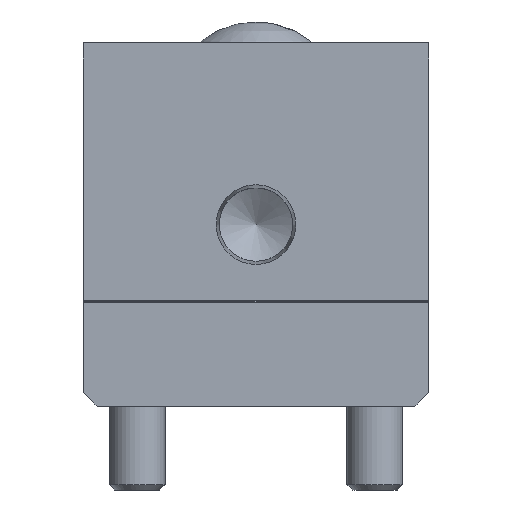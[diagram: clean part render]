
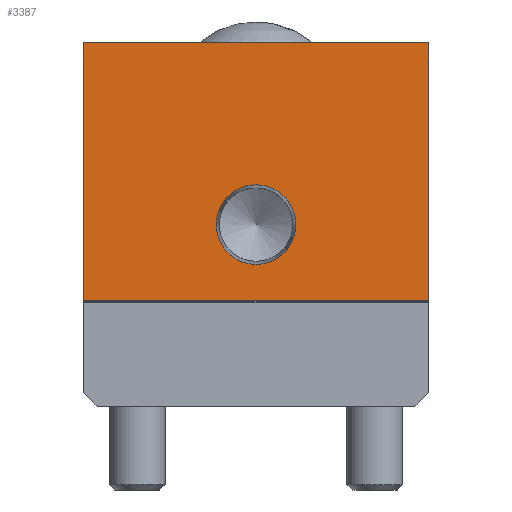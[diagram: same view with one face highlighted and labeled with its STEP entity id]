
A CAD part, front view. The second image highlights one B-rep face of the part: STEP entity #3387.
In plain terms, the highlighted planar face has unit normal (0, -1, 0).
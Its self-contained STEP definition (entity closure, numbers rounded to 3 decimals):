
#165=FACE_BOUND('',#690,.T.);
#257=CIRCLE('',#3609,5.704);
#439=FACE_OUTER_BOUND('',#689,.T.);
#689=EDGE_LOOP('',(#2420,#2421,#2422,#2423));
#690=EDGE_LOOP('',(#2424));
#1013=LINE('',#5018,#1281);
#1016=LINE('',#5023,#1284);
#1018=LINE('',#5031,#1286);
#1032=LINE('',#5067,#1300);
#1281=VECTOR('',#4060,36.9);
#1284=VECTOR('',#4065,49.5);
#1286=VECTOR('',#4073,36.9);
#1300=VECTOR('',#4117,49.5);
#1532=VERTEX_POINT('',#5015);
#1533=VERTEX_POINT('',#5017);
#1534=VERTEX_POINT('',#5021);
#1537=VERTEX_POINT('',#5029);
#1541=VERTEX_POINT('',#5043);
#1853=EDGE_CURVE('',#1533,#1532,#1013,.T.);
#1856=EDGE_CURVE('',#1532,#1534,#1016,.T.);
#1860=EDGE_CURVE('',#1537,#1534,#1018,.T.);
#1865=EDGE_CURVE('',#1541,#1541,#257,.T.);
#1878=EDGE_CURVE('',#1537,#1533,#1032,.T.);
#2420=ORIENTED_EDGE('',*,*,#1878,.T.);
#2421=ORIENTED_EDGE('',*,*,#1853,.T.);
#2422=ORIENTED_EDGE('',*,*,#1856,.T.);
#2423=ORIENTED_EDGE('',*,*,#1860,.F.);
#2424=ORIENTED_EDGE('',*,*,#1865,.T.);
#3057=PLANE('',#3642);
#3387=ADVANCED_FACE('',(#439,#165),#3057,.T.);
#3609=AXIS2_PLACEMENT_3D('',#5044,#4088,#4089);
#3642=AXIS2_PLACEMENT_3D('',#5105,#4171,#4172);
#4060=DIRECTION('',(0.,0.,1.));
#4065=DIRECTION('',(-1.,0.,0.));
#4073=DIRECTION('',(0.,0.,1.));
#4088=DIRECTION('center_axis',(0.,1.,0.));
#4089=DIRECTION('ref_axis',(1.,0.,0.));
#4117=DIRECTION('',(1.,0.,0.));
#4171=DIRECTION('center_axis',(0.,-1.,0.));
#4172=DIRECTION('ref_axis',(0.,0.,-1.));
#5015=CARTESIAN_POINT('',(24.75,0.,52.));
#5017=CARTESIAN_POINT('',(24.75,0.,15.1));
#5018=CARTESIAN_POINT('',(24.75,0.,0.));
#5021=CARTESIAN_POINT('',(-24.75,0.,52.));
#5023=CARTESIAN_POINT('',(24.75,0.,52.));
#5029=CARTESIAN_POINT('',(-24.75,0.,15.1));
#5031=CARTESIAN_POINT('',(-24.75,0.,0.));
#5043=CARTESIAN_POINT('',(5.704,0.,26.));
#5044=CARTESIAN_POINT('Origin',(0.,0.,26.));
#5067=CARTESIAN_POINT('',(24.75,0.,15.1));
#5105=CARTESIAN_POINT('Origin',(24.75,0.,0.));
